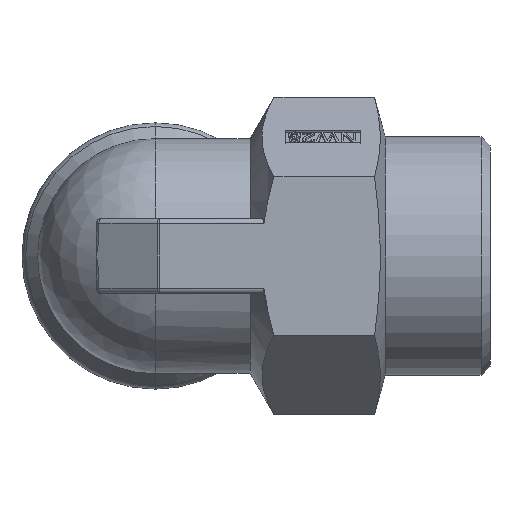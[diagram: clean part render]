
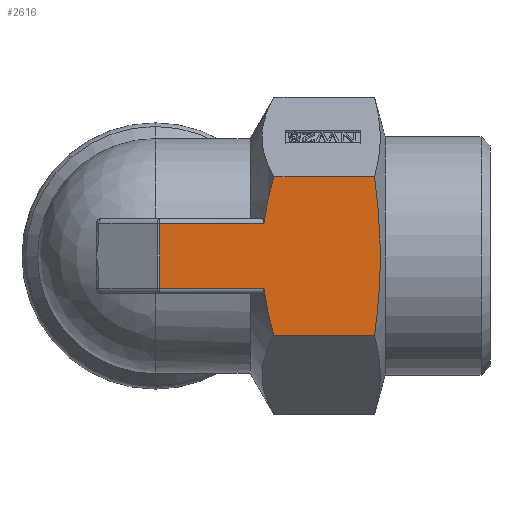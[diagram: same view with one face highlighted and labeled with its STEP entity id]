
A CAD part, left-side view. The second image highlights one B-rep face of the part: STEP entity #2616.
In plain terms, the highlighted planar face has unit normal (-1, 0, 0).
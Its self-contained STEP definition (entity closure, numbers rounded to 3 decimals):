
#62 = VERTEX_POINT ( 'NONE', #3055 ) ;
#86 = VERTEX_POINT ( 'NONE', #1548 ) ;
#163 = VERTEX_POINT ( 'NONE', #4173 ) ;
#332 = CARTESIAN_POINT ( 'NONE',  ( -27.5, -23.544, -15.11 ) ) ;
#362 = B_SPLINE_CURVE_WITH_KNOTS ( 'NONE', 3,
 ( #2609, #1525, #2038, #555 ),
 .UNSPECIFIED., .F., .F.,
 ( 4, 4 ),
 ( 0.051, 0.061 ),
 .UNSPECIFIED. ) ;
#485 = EDGE_CURVE ( 'NONE', #62, #2691, #6327, .T. ) ;
#544 = EDGE_CURVE ( 'NONE', #3633, #629, #3898, .T. ) ;
#555 = CARTESIAN_POINT ( 'NONE',  ( -27.5, -23.766, 15.877 ) ) ;
#629 = VERTEX_POINT ( 'NONE', #4619 ) ;
#639 = ORIENTED_EDGE ( 'NONE', *, *, #3391, .T. ) ;
#683 = LINE ( 'NONE', #2820, #6031 ) ;
#817 = DIRECTION ( 'NONE',  ( 0., 1., 0. ) ) ;
#832 = CARTESIAN_POINT ( 'NONE',  ( -27.5, -23.766, 15.877 ) ) ;
#958 = ORIENTED_EDGE ( 'NONE', *, *, #3150, .T. ) ;
#1092 = CARTESIAN_POINT ( 'NONE',  ( -27.5, -45.036, -2.62 ) ) ;
#1134 = CARTESIAN_POINT ( 'NONE',  ( -27.5, -43.895, 15.877 ) ) ;
#1204 = CARTESIAN_POINT ( 'NONE',  ( -27.5, -46., 15.877 ) ) ;
#1357 = CARTESIAN_POINT ( 'NONE',  ( -27.5, -22.937, -12.784 ) ) ;
#1437 = ORIENTED_EDGE ( 'NONE', *, *, #6099, .F. ) ;
#1525 = CARTESIAN_POINT ( 'NONE',  ( -27.5, -22.171, 9.692 ) ) ;
#1548 = CARTESIAN_POINT ( 'NONE',  ( -27.5, -21.747, 6.5 ) ) ;
#1563 = VECTOR ( 'NONE', #3023, 1000. ) ;
#1598 = DIRECTION ( 'NONE',  ( 0., 1., 0. ) ) ;
#1611 = ORIENTED_EDGE ( 'NONE', *, *, #2949, .T. ) ;
#1654 = CARTESIAN_POINT ( 'NONE',  ( -27.5, -44.249, 13.24 ) ) ;
#1700 = CARTESIAN_POINT ( 'NONE',  ( -27.5, -44.932, -5.27 ) ) ;
#1755 = CARTESIAN_POINT ( 'NONE',  ( -27.5, -44.25, -13.234 ) ) ;
#1866 = B_SPLINE_CURVE_WITH_KNOTS ( 'NONE', 3,
 ( #1134, #1654, #4117, #5684, #2676, #1092, #1700, #5192, #1755, #6220 ),
 .UNSPECIFIED., .F., .F.,
 ( 4, 2, 2, 2, 4 ),
 ( 0.062, 0.07, 0.078, 0.086, 0.094 ),
 .UNSPECIFIED. ) ;
#1874 = CARTESIAN_POINT ( 'NONE',  ( -27.5, -22.238, -9.65 ) ) ;
#1989 = DIRECTION ( 'NONE',  ( 0., 0., -1. ) ) ;
#2038 = CARTESIAN_POINT ( 'NONE',  ( -27.5, -22.88, 12.808 ) ) ;
#2130 = FACE_OUTER_BOUND ( 'NONE', #5525, .T. ) ;
#2369 = CARTESIAN_POINT ( 'NONE',  ( -27.5, -21.956, -8.078 ) ) ;
#2609 = CARTESIAN_POINT ( 'NONE',  ( -27.5, -21.747, 6.5 ) ) ;
#2616 = ADVANCED_FACE ( 'NONE', ( #2130 ), #3698, .F. ) ;
#2676 = CARTESIAN_POINT ( 'NONE',  ( -27.5, -45.035, 2.674 ) ) ;
#2691 = VERTEX_POINT ( 'NONE', #832 ) ;
#2787 = CARTESIAN_POINT ( 'NONE',  ( -27.5, -21.747, -6.5 ) ) ;
#2820 = CARTESIAN_POINT ( 'NONE',  ( -27.5, -0.631, 6.5 ) ) ;
#2855 = CARTESIAN_POINT ( 'NONE',  ( -27.5, -23.766, -15.877 ) ) ;
#2949 = EDGE_CURVE ( 'NONE', #86, #163, #683, .T. ) ;
#3008 = ORIENTED_EDGE ( 'NONE', *, *, #3160, .F. ) ;
#3023 = DIRECTION ( 'NONE',  ( 0., 1., 0. ) ) ;
#3055 = CARTESIAN_POINT ( 'NONE',  ( -27.5, -43.895, 15.877 ) ) ;
#3150 = EDGE_CURVE ( 'NONE', #5092, #5742, #3670, .T. ) ;
#3160 = EDGE_CURVE ( 'NONE', #629, #5742, #4636, .T. ) ;
#3343 = EDGE_CURVE ( 'NONE', #86, #2691, #362, .T. ) ;
#3352 = VECTOR ( 'NONE', #1989, 1000. ) ;
#3391 = EDGE_CURVE ( 'NONE', #163, #5092, #5400, .T. ) ;
#3623 = CARTESIAN_POINT ( 'NONE',  ( -27.5, -0.899, -6.5 ) ) ;
#3633 = VERTEX_POINT ( 'NONE', #4928 ) ;
#3670 = LINE ( 'NONE', #4849, #6406 ) ;
#3698 = PLANE ( 'NONE',  #5034 ) ;
#3875 = DIRECTION ( 'NONE',  ( 0., -1., 0. ) ) ;
#3898 = LINE ( 'NONE', #4045, #1563 ) ;
#4045 = CARTESIAN_POINT ( 'NONE',  ( -27.5, -46., -15.877 ) ) ;
#4117 = CARTESIAN_POINT ( 'NONE',  ( -27.5, -44.536, 10.601 ) ) ;
#4173 = CARTESIAN_POINT ( 'NONE',  ( -27.5, -0.899, 6.5 ) ) ;
#4300 = CARTESIAN_POINT ( 'NONE',  ( -27.5, -21.747, -6.5 ) ) ;
#4356 = CARTESIAN_POINT ( 'NONE',  ( -27.5, -23.333, -14.338 ) ) ;
#4380 = CARTESIAN_POINT ( 'NONE',  ( -27.5, -22.75, -12.001 ) ) ;
#4408 = ORIENTED_EDGE ( 'NONE', *, *, #3343, .F. ) ;
#4619 = CARTESIAN_POINT ( 'NONE',  ( -27.5, -23.766, -15.877 ) ) ;
#4636 = B_SPLINE_CURVE_WITH_KNOTS ( 'NONE', 3,
 ( #2855, #332, #4356, #1357, #4380, #1874, #2369, #4300 ),
 .UNSPECIFIED., .F., .F.,
 ( 4, 2, 2, 4 ),
 ( 0.029, 0.031, 0.034, 0.038 ),
 .UNSPECIFIED. ) ;
#4849 = CARTESIAN_POINT ( 'NONE',  ( -27.5, -46., -6.5 ) ) ;
#4928 = CARTESIAN_POINT ( 'NONE',  ( -27.5, -43.895, -15.877 ) ) ;
#5003 = CARTESIAN_POINT ( 'NONE',  ( -27.5, -0.899, -7.5 ) ) ;
#5034 = AXIS2_PLACEMENT_3D ( 'NONE', #1204, #5197, #5288 ) ;
#5092 = VERTEX_POINT ( 'NONE', #3623 ) ;
#5139 = ORIENTED_EDGE ( 'NONE', *, *, #485, .T. ) ;
#5192 = CARTESIAN_POINT ( 'NONE',  ( -27.5, -44.539, -10.575 ) ) ;
#5197 = DIRECTION ( 'NONE',  ( 1., 0., 0. ) ) ;
#5240 = VECTOR ( 'NONE', #1598, 1000. ) ;
#5288 = DIRECTION ( 'NONE',  ( 0., 0., -1. ) ) ;
#5400 = LINE ( 'NONE', #5003, #3352 ) ;
#5525 = EDGE_LOOP ( 'NONE', ( #4408, #1611, #639, #958, #3008, #5691, #1437, #5139 ) ) ;
#5684 = CARTESIAN_POINT ( 'NONE',  ( -27.5, -44.93, 5.318 ) ) ;
#5691 = ORIENTED_EDGE ( 'NONE', *, *, #544, .F. ) ;
#5742 = VERTEX_POINT ( 'NONE', #2787 ) ;
#6031 = VECTOR ( 'NONE', #817, 1000. ) ;
#6099 = EDGE_CURVE ( 'NONE', #62, #3633, #1866, .T. ) ;
#6220 = CARTESIAN_POINT ( 'NONE',  ( -27.5, -43.895, -15.877 ) ) ;
#6327 = LINE ( 'NONE', #6459, #5240 ) ;
#6406 = VECTOR ( 'NONE', #3875, 1000. ) ;
#6459 = CARTESIAN_POINT ( 'NONE',  ( -27.5, -46., 15.877 ) ) ;
